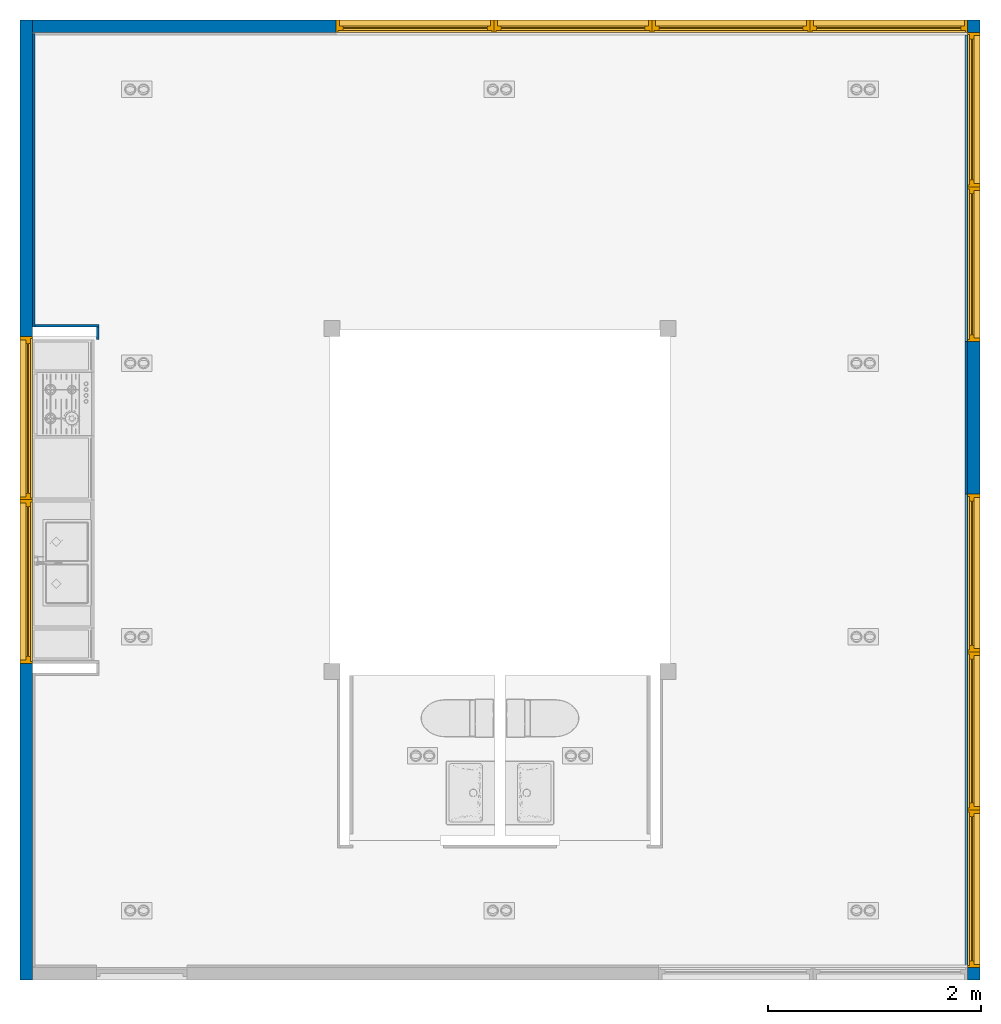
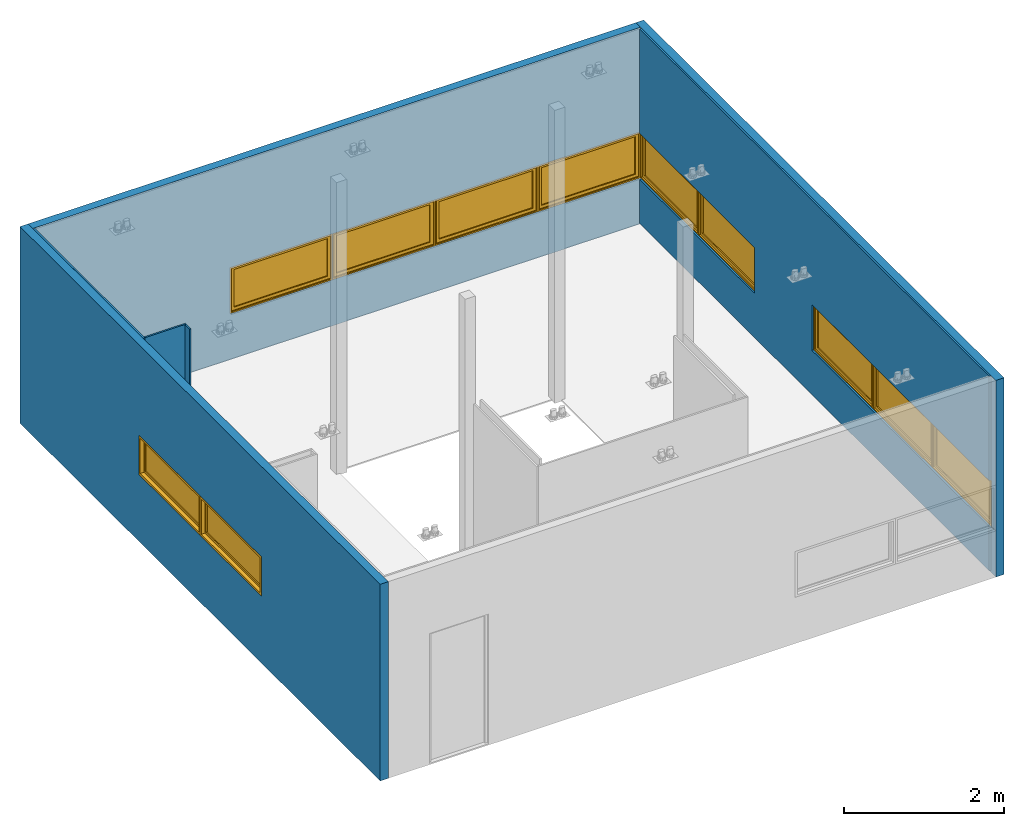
"""IFC2X3 building model written with IfcOpenShell, lengths in centimetres."""

from ifc_helpers import new_model, entity, si_unit, converted_unit, derived_unit, direction, frame, frame_2d, origin, origin_2d_with_axis, place, context, subcontext, project, spatial, polyline, rectangle, outline, extrude, source, transform, mapped, material, material_list, layer, layer_set, layer_usage, type_object, type_shapes, element, fill, save


model = new_model("IFC2X3")

# Units and contexts
model_context = context("Model", 3, precision=0.001, world=origin(), true_north=direction((6.123233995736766e-17, 1.0)))
body_context = subcontext(model_context, "Body", "Model", "MODEL_VIEW")
ifc_project = project(units=[si_unit("LENGTHUNIT", "METRE", prefix="CENTI"), si_unit("AREAUNIT", "SQUARE_METRE"), si_unit("VOLUMEUNIT", "CUBIC_METRE"), converted_unit("PLANEANGLEUNIT", "DEGREE", entity("IfcPlaneAngleMeasure", 0.017453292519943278), si_unit("PLANEANGLEUNIT", "RADIAN"), dimensions=[0, 0, 0, 0, 0, 0, 0]), si_unit("POWERUNIT", "WATT"), derived_unit("USERDEFINED", [(si_unit("MASSUNIT", "GRAM", prefix="KILO"), 1), (si_unit("TIMEUNIT", "SECOND"), -3)]), si_unit("FORCEUNIT", "NEWTON", prefix="KILO"), derived_unit("THERMALTRANSMITTANCEUNIT", [(si_unit("MASSUNIT", "GRAM", prefix="KILO"), 1), (si_unit("TIMEUNIT", "SECOND"), -3), (si_unit("THERMODYNAMICTEMPERATUREUNIT", "KELVIN"), -1)]), derived_unit("USERDEFINED", [(si_unit("MASSUNIT", "GRAM", prefix="KILO"), 1), (si_unit("THERMODYNAMICTEMPERATUREUNIT", "KELVIN"), -1), (si_unit("TIMEUNIT", "SECOND"), -2)]), derived_unit("THERMALRESISTANCEUNIT", [(si_unit("MASSUNIT", "GRAM", prefix="KILO"), -1), (si_unit("TIMEUNIT", "SECOND"), 3), (si_unit("THERMODYNAMICTEMPERATUREUNIT", "KELVIN"), 1)]), derived_unit("USERDEFINED", [(si_unit("MASSUNIT", "GRAM", prefix="KILO"), -1), (si_unit("TIMEUNIT", "SECOND"), 3), (si_unit("LENGTHUNIT", "METRE"), -2), (si_unit("LUMINOUSFLUXUNIT", "LUMEN"), 1)]), si_unit("LUMINOUSFLUXUNIT", "LUMEN")], contexts=[model_context])

# Site, building, storey
site_placement = place(None, origin())
site = spatial("IfcSite", under=ifc_project, at=site_placement, Name="Default", CompositionType="ELEMENT")
building_placement = place(site_placement, origin())
building = spatial("IfcBuilding", under=site, at=building_placement, Name="Workshop Hbaitáculo - Refugio Tierra del Fuego", CompositionType="ELEMENT")
storey_1_placement = place(building_placement, frame((0.0, 0.0, 123.0)))
storey_1 = spatial("IfcBuildingStorey", under=building, at=storey_1_placement, Name="NPT", CompositionType="ELEMENT", Elevation=123.0)

# Wall, openings
ifc_material_1 = material(Name="SIP OSB")
ifc_layer_1 = layer(ifc_material_1, 1.1)
ifc_material_2 = material(Name="SIP Aislamiento - Poliestireno expandido")
ifc_layer_2 = layer(ifc_material_2, 9.5)
ifc_layer_3 = layer(ifc_material_1, 1.1)
ifc_layer_set_1 = layer_set([ifc_layer_1, ifc_layer_2, ifc_layer_3], Name="Muro básico:Panel SiP perimetral 117mm")
ifc_layer_usage_1 = layer_usage(ifc_layer_set_1, "AXIS2", "NEGATIVE", 5.849999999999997)
wall_type_1 = type_object("IfcWallType", Name="Muro básico:Panel SiP perimetral 117mm", PredefinedType="STANDARD", material=ifc_layer_set_1)
wall_1_placement = place(storey_1_placement, frame((5.700000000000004, 309.14999999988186, -2.0), z_axis=(0.0, 0.0, 1.0), x_axis=(0.0, -1.0, 0.0)))
wall_1 = element("IfcWallStandardCase", 1, at=wall_1_placement, inside=storey_1, type_object=wall_type_1, material=ifc_layer_usage_1, Name="Muro básico:Panel SiP perimetral 117mm", ObjectType="Muro básico:Panel SiP perimetral 117mm", context=body_context, shape_type="SweptSolid", body=[
    extrude(rectangle(XDim=900.299999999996, YDim=11.699999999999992, at=frame_2d((450.149999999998, 0.0), x_axis=(-1.0, 0.0))), origin(), (0.0, 0.0, 1.0), 299.99999999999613),
])
opening_1_placement = place(wall_1_placement, frame((449.89999999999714, -5.849999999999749, 102.0)))
opening_1 = element("IfcOpeningElement", 2, at=opening_1_placement, cuts=wall_1, Name="M_Fixed1:153.5*60:1", ObjectType="Opening", context=body_context, shape_type="SweptSolid", body=[
    extrude(rectangle(XDim=59.9999999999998, YDim=153.49999999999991, at=frame_2d((29.999999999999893, 76.75000000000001), x_axis=(1.0, 0.0))), frame((0.0, 0.0, 0.0), z_axis=(0.0, 1.0, 0.0), x_axis=(0.0, 0.0, 1.0)), (0.0, 0.0, 1.0), 11.699999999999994),
])
opening_2_placement = place(wall_1_placement, frame((296.89999999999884, -5.850000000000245, 102.0)))
opening_2 = element("IfcOpeningElement", 3, at=opening_2_placement, cuts=wall_1, Name="M_Fixed1:153.5*60:1", ObjectType="Opening", context=body_context, shape_type="SweptSolid", body=[
    extrude(rectangle(XDim=59.9999999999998, YDim=153.49999999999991, at=frame_2d((29.999999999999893, 76.74999999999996), x_axis=(1.0, 0.0))), frame((0.0, 0.0, 0.0), z_axis=(0.0, 1.0, 0.0), x_axis=(0.0, 0.0, 1.0)), (0.0, 0.0, 1.0), 11.699999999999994),
])

# Storey
storey_2_placement = place(building_placement, frame((0.0, 0.0, 100.0)))
storey_2 = spatial("IfcBuildingStorey", under=building, at=storey_2_placement, Name="NOG_PISO 1", CompositionType="ELEMENT", Elevation=100.0)

# Window
ifc_material_3 = material(Name="Aluminio anodizado, antracita")
ifc_material_4 = material(Name="Glass")
ifc_material_list = material_list([ifc_material_3, ifc_material_4])
window_style_1 = type_object("IfcWindowStyle", Name="M_Fixed1:153.5*60", ConstructionType="NOTDEFINED", OperationType="NOTDEFINED", ParameterTakesPrecedence=False, Sizeable=False, material=ifc_material_list)
shared_shape_1 = source(origin(), body_context, "Body", "SweptSolid", [
    extrude(outline(polyline([(-76.75000000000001, -30.0), (76.75000000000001, -30.0), (76.75000000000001, 30.0), (-76.75000000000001, 30.0), (-76.75000000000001, -30.0)]), holes=[polyline([(-73.55000000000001, -26.799999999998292), (-73.54999999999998, 26.80000000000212), (73.55000000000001, 26.80000000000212), (73.55000000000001, -26.799999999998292), (-73.55000000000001, -26.799999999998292)])]), frame((76.75000000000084, 0.0, 30.0), z_axis=(0.0, 1.0, 0.0), x_axis=(1.0, 0.0, 0.0)), (0.0, 0.0, 1.0), 5.399999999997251),
    extrude(outline(polyline([(-76.74999999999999, -30.0), (76.74999999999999, -30.0), (76.74999999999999, 30.0), (-76.74999999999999, 30.0), (-76.74999999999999, -30.0)]), holes=[polyline([(-74.85000000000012, -28.099999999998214), (-74.85000000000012, 28.100000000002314), (74.84999999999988, 28.100000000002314), (74.84999999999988, -28.099999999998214), (-74.85000000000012, -28.099999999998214)])]), frame((76.75000000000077, 5.399999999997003, 30.0), z_axis=(0.0, 1.0, 0.0), x_axis=(1.0, 0.0, 0.0)), (0.0, 0.0, 1.0), 6.300000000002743),
    extrude(outline(polyline([(-74.85, -28.100000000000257), (74.85, -28.100000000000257), (74.85, 28.10000000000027), (-74.85, 28.10000000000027), (-74.85, -28.100000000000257)]), holes=[polyline([(-70.44999999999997, -23.700000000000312), (-70.44999999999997, 23.700000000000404), (70.44999999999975, 23.700000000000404), (70.44999999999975, -23.700000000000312), (-70.44999999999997, -23.700000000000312)])]), frame((76.75000000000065, 5.399999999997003, 30.0), z_axis=(0.0, 1.0, 0.0), x_axis=(1.0, 0.0, 0.0)), (0.0, 0.0, 1.0), 4.400000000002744),
    extrude(rectangle(XDim=1.1999999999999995, YDim=140.89999999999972, at=origin_2d_with_axis()), frame((76.75000000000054, 7.599999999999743, 6.299999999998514), z_axis=(0.0, 0.0, 1.0), x_axis=(0.0, -1.0, 0.0)), (0.0, 0.0, 1.0), 47.400000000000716),
])
type_shapes(window_style_1, [shared_shape_1])
window_1_placement = place(opening_1_placement, origin())
window_1 = element("IfcWindow", 4, at=window_1_placement, inside=storey_2, type_object=window_style_1, material=ifc_material_list, Name="M_Fixed1:153.5*60", ObjectType="M_Fixed1:153.5*60", OverallHeight=59.99999999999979, OverallWidth=153.49999999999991, context=body_context, shape_type="MappedRepresentation", body=[
    mapped(shared_shape_1, transform((0.0, 0.0, 0.0), scale=1.0)),
])

fill(opening_1, window_1)

window_style_2 = type_object("IfcWindowStyle", Name="M_Fixed1:153.5*60", ConstructionType="NOTDEFINED", OperationType="NOTDEFINED", ParameterTakesPrecedence=False, Sizeable=False, material=ifc_material_list)
shared_shape_2 = source(origin(), body_context, "Body", "SweptSolid", [
    extrude(outline(polyline([(-76.75000000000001, -30.0), (76.75000000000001, -30.0), (76.75000000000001, 30.0), (-76.75000000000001, 30.0), (-76.75000000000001, -30.0)]), holes=[polyline([(-73.55000000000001, -26.799999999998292), (-73.54999999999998, 26.80000000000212), (73.55000000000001, 26.80000000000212), (73.55000000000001, -26.799999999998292), (-73.55000000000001, -26.799999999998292)])]), frame((76.75000000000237, 8.0, 30.0), z_axis=(0.0, -1.0, 0.0), x_axis=(-1.0, 0.0, 0.0)), (0.0, 0.0, 1.0), 5.399999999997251),
    extrude(outline(polyline([(-76.74999999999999, -30.0), (76.74999999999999, -30.0), (76.74999999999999, 30.0), (-76.74999999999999, 30.0), (-76.74999999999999, -30.0)]), holes=[polyline([(-74.85000000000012, -28.099999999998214), (-74.85000000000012, 28.100000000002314), (74.84999999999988, 28.100000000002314), (74.84999999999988, -28.099999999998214), (-74.85000000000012, -28.099999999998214)])]), frame((76.75000000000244, 14.300000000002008, 30.0), z_axis=(0.0, -1.0, 0.0), x_axis=(-1.0, 0.0, 0.0)), (0.0, 0.0, 1.0), 6.300000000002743),
    extrude(outline(polyline([(-74.85, -28.100000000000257), (74.85, -28.100000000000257), (74.85, 28.10000000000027), (-74.85, 28.10000000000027), (-74.85, -28.100000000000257)]), holes=[polyline([(-70.44999999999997, -23.700000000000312), (-70.44999999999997, 23.700000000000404), (70.44999999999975, 23.700000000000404), (70.44999999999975, -23.700000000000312), (-70.44999999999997, -23.700000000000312)])]), frame((76.75000000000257, 12.400000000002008, 30.0), z_axis=(0.0, -1.0, 0.0), x_axis=(-1.0, 0.0, 0.0)), (0.0, 0.0, 1.0), 4.400000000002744),
    extrude(rectangle(XDim=140.89999999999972, YDim=1.1999999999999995, at=origin_2d_with_axis()), frame((76.75000000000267, 10.200000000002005, 6.299999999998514), z_axis=(0.0, 0.0, 1.0), x_axis=(-1.0, 0.0, 0.0)), (0.0, 0.0, 1.0), 47.400000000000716),
])
type_shapes(window_style_2, [shared_shape_2])
window_2_placement = place(opening_2_placement, frame((0.0, -2.6000000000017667, 0.0)))
window_2 = element("IfcWindow", 5, at=window_2_placement, inside=storey_2, type_object=window_style_2, material=ifc_material_list, Name="M_Fixed1:153.5*60", ObjectType="M_Fixed1:153.5*60", OverallHeight=59.99999999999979, OverallWidth=153.49999999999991, context=body_context, shape_type="MappedRepresentation", body=[
    mapped(shared_shape_2, transform((0.0, 0.0, 0.0), scale=1.0)),
])

fill(opening_2, window_2)

# Wall, openings, windows
ifc_layer_usage_2 = layer_usage(ifc_layer_set_1, "AXIS2", "NEGATIVE", 5.849999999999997)
wall_2_placement = place(storey_1_placement, frame((11.549999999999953, 303.29999999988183, -2.0)))
wall_2 = element("IfcWallStandardCase", 6, at=wall_2_placement, inside=storey_1, type_object=wall_type_1, material=ifc_layer_usage_2, Name="Muro básico:Panel SiP perimetral 117mm", ObjectType="Muro básico:Panel SiP perimetral 117mm", context=body_context, shape_type="SweptSolid", body=[
    extrude(rectangle(XDim=876.9000000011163, YDim=11.700000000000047, at=frame_2d((438.45000000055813, -1.021405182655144e-14), x_axis=(-1.0, 0.0))), origin(), (0.0, 0.0, 1.0), 299.99999999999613),
])
opening_3_placement = place(wall_2_placement, origin())
element("IfcOpeningElement", 7, at=opening_3_placement, cuts=wall_2, Name="Muro básico:Panel SiP perimetral 117mm", ObjectType="Opening", context=body_context, shape_type="SweptSolid", body=[
    extrude(rectangle(XDim=69.9999999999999, YDim=11.700000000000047, at=frame_2d((-5.417888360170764e-14, 0.0), x_axis=(0.0, 1.0))), frame((882.7500000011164, -150.69999999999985, 105.50000000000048), z_axis=(0.0, 1.0, 0.0), x_axis=(1.0, 0.0, 0.0)), (0.0, 0.0, 1.0), 144.99999999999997),
])
opening_4_placement = place(wall_2_placement, frame((877.050000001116, 5.849999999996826, 70.50000000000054)))
opening_4 = element("IfcOpeningElement", 8, at=opening_4_placement, cuts=wall_2, Name="M_Fixed1:148*70:1", ObjectType="Opening", context=body_context, shape_type="SweptSolid", body=[
    extrude(rectangle(XDim=69.99999999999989, YDim=147.99999999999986, at=frame_2d((34.99999999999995, 73.99999999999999), x_axis=(1.0, 0.0))), frame((0.0, 0.0, 0.0), z_axis=(0.0, -1.0, 0.0), x_axis=(0.0, 0.0, 1.0)), (0.0, 0.0, 1.0), 11.699999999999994),
])
opening_5_placement = place(wall_2_placement, frame((729.0500000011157, 5.849999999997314, 70.50000000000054)))
opening_5 = element("IfcOpeningElement", 9, at=opening_5_placement, cuts=wall_2, Name="M_Fixed1:148*70:1", ObjectType="Opening", context=body_context, shape_type="SweptSolid", body=[
    extrude(rectangle(XDim=69.99999999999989, YDim=147.99999999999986, at=frame_2d((34.99999999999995, 73.99999999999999), x_axis=(1.0, 0.0))), frame((0.0, 0.0, 0.0), z_axis=(0.0, -1.0, 0.0), x_axis=(0.0, 0.0, 1.0)), (0.0, 0.0, 1.0), 11.699999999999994),
])
opening_6_placement = place(wall_2_placement, frame((580.9378211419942, 5.849999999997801, 70.50000000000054)))
opening_6 = element("IfcOpeningElement", 10, at=opening_6_placement, cuts=wall_2, Name="M_Fixed1:148*70:1", ObjectType="Opening", context=body_context, shape_type="SweptSolid", body=[
    extrude(rectangle(XDim=69.99999999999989, YDim=147.99999999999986, at=frame_2d((34.99999999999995, 73.99999999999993), x_axis=(1.0, 0.0))), frame((0.0, 0.0, 0.0), z_axis=(0.0, -1.0, 0.0), x_axis=(0.0, 0.0, 1.0)), (0.0, 0.0, 1.0), 11.699999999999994),
])
opening_7_placement = place(wall_2_placement, frame((432.82564228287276, 5.849999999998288, 70.50000000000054)))
opening_7 = element("IfcOpeningElement", 11, at=opening_7_placement, cuts=wall_2, Name="M_Fixed1:148*70:1", ObjectType="Opening", context=body_context, shape_type="SweptSolid", body=[
    extrude(rectangle(XDim=69.99999999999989, YDim=147.99999999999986, at=frame_2d((34.99999999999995, 73.99999999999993), x_axis=(1.0, 0.0))), frame((0.0, 0.0, 0.0), z_axis=(0.0, -1.0, 0.0), x_axis=(0.0, 0.0, 1.0)), (0.0, 0.0, 1.0), 11.699999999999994),
])
window_style_3 = type_object("IfcWindowStyle", Name="M_Fixed1:148*70", ConstructionType="NOTDEFINED", OperationType="NOTDEFINED", ParameterTakesPrecedence=False, Sizeable=False, material=ifc_material_list)
shared_shape_3 = source(origin(), body_context, "Body", "SweptSolid", [
    extrude(outline(polyline([(-74.0, -35.0), (74.0, -35.0), (74.0, 35.0), (-74.0, 35.0), (-74.0, -35.0)]), holes=[polyline([(-70.79999999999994, -31.799999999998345), (-70.79999999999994, 31.80000000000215), (70.79999999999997, 31.80000000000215), (70.79999999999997, -31.799999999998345), (-70.79999999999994, -31.799999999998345)])]), frame((74.0, 0.0, 35.0), z_axis=(0.0, 1.0, 0.0), x_axis=(1.0, 0.0, 0.0)), (0.0, 0.0, 1.0), 5.399999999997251),
    extrude(outline(polyline([(-74.0, -35.0), (74.0, -35.0), (74.0, 35.0), (-74.0, 35.0), (-74.0, -35.0)]), holes=[polyline([(-72.10000000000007, -33.09999999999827), (-72.10000000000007, 33.10000000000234), (72.09999999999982, 33.10000000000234), (72.09999999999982, -33.09999999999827), (-72.10000000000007, -33.09999999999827)])]), frame((74.0, 5.3999999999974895, 35.0), z_axis=(0.0, 1.0, 0.0), x_axis=(1.0, 0.0, 0.0)), (0.0, 0.0, 1.0), 6.300000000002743),
    extrude(outline(polyline([(-72.09999999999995, -33.1000000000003), (72.09999999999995, -33.1000000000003), (72.09999999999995, 33.100000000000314), (-72.09999999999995, 33.100000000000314), (-72.09999999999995, -33.1000000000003)]), holes=[polyline([(-67.69999999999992, -28.70000000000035), (-67.69999999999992, 28.700000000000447), (67.6999999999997, 28.700000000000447), (67.6999999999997, -28.70000000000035), (-67.69999999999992, -28.70000000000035)])]), frame((74.0, 5.3999999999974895, 35.0), z_axis=(0.0, 1.0, 0.0), x_axis=(1.0, 0.0, 0.0)), (0.0, 0.0, 1.0), 4.400000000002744),
    extrude(rectangle(XDim=1.1999999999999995, YDim=135.3999999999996, at=origin_2d_with_axis()), frame((74.0, 7.600000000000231, 6.299999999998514), z_axis=(0.0, 0.0, 1.0), x_axis=(0.0, -1.0, 0.0)), (0.0, 0.0, 1.0), 57.400000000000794),
])
type_shapes(window_style_3, [shared_shape_3])
window_3_placement = place(opening_4_placement, frame((0.0, 0.0, 0.0), z_axis=(0.0, 0.0, 1.0), x_axis=(-1.0, 0.0, 0.0)))
window_3 = element("IfcWindow", 12, at=window_3_placement, inside=storey_2, type_object=window_style_3, material=ifc_material_list, Name="M_Fixed1:148*70", ObjectType="M_Fixed1:148*70", OverallHeight=69.9999999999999, OverallWidth=147.99999999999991, context=body_context, shape_type="MappedRepresentation", body=[
    mapped(shared_shape_3, transform((0.0, 0.0, 0.0), scale=1.0)),
])
fill(opening_4, window_3)
window_4_placement = place(opening_5_placement, frame((0.0, 0.0, 0.0), z_axis=(0.0, 0.0, 1.0), x_axis=(-1.0, 0.0, 0.0)))
window_4 = element("IfcWindow", 13, at=window_4_placement, inside=storey_2, type_object=window_style_3, material=ifc_material_list, Name="M_Fixed1:148*70", ObjectType="M_Fixed1:148*70", OverallHeight=69.9999999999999, OverallWidth=147.99999999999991, context=body_context, shape_type="MappedRepresentation", body=[
    mapped(shared_shape_3, transform((0.0, 0.0, 0.0), scale=1.0)),
])
fill(opening_5, window_4)
window_5_placement = place(opening_6_placement, frame((0.0, 0.0, 0.0), z_axis=(0.0, 0.0, 1.0), x_axis=(-1.0, 0.0, 0.0)))
window_5 = element("IfcWindow", 14, at=window_5_placement, inside=storey_2, type_object=window_style_3, material=ifc_material_list, Name="M_Fixed1:148*70", ObjectType="M_Fixed1:148*70", OverallHeight=69.9999999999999, OverallWidth=147.99999999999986, context=body_context, shape_type="MappedRepresentation", body=[
    mapped(shared_shape_3, transform((0.0, 0.0, 0.0), scale=1.0)),
])
fill(opening_6, window_5)
window_6_placement = place(opening_7_placement, frame((0.0, 0.0, 0.0), z_axis=(0.0, 0.0, 1.0), x_axis=(-1.0, 0.0, 0.0)))
window_6 = element("IfcWindow", 15, at=window_6_placement, inside=storey_2, type_object=window_style_3, material=ifc_material_list, Name="M_Fixed1:148*70", ObjectType="M_Fixed1:148*70", OverallHeight=69.9999999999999, OverallWidth=147.99999999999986, context=body_context, shape_type="MappedRepresentation", body=[
    mapped(shared_shape_3, transform((0.0, 0.0, 0.0), scale=1.0)),
])
fill(opening_7, window_6)

ifc_layer_usage_3 = layer_usage(ifc_layer_set_1, "AXIS2", "POSITIVE", -5.849999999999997)
wall_3_placement = place(storey_1_placement, frame((894.3000000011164, 309.1499999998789, -2.0), z_axis=(0.0, 0.0, 1.0), x_axis=(0.0, -1.0, 0.0)))
wall_3 = element("IfcWallStandardCase", 16, at=wall_3_placement, inside=storey_1, type_object=wall_type_1, material=ifc_layer_usage_3, Name="Muro básico:Panel SiP perimetral 117mm", ObjectType="Muro básico:Panel SiP perimetral 117mm", context=body_context, shape_type="SweptSolid", body=[
    extrude(rectangle(XDim=900.2999999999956, YDim=11.700000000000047, at=frame_2d((450.14999999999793, -5.3734794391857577e-14), x_axis=(-1.0, 0.0))), origin(), (0.0, 0.0, 1.0), 299.99999999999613),
])
opening_8_placement = place(wall_3_placement, origin())
element("IfcOpeningElement", 17, at=opening_8_placement, cuts=wall_3, Name="Muro básico:Panel SiP perimetral 117mm", ObjectType="Opening", context=body_context, shape_type="SweptSolid", body=[
    extrude(rectangle(XDim=69.9999999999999, YDim=11.700000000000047, at=frame_2d((5.417888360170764e-14, 0.0), x_axis=(0.0, 1.0))), frame((894.4499999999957, -150.6999999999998, 105.5), z_axis=(0.0, 1.0, 0.0), x_axis=(1.0, 0.0, 0.0)), (0.0, 0.0, 1.0), 144.99999999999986),
])
opening_9_placement = place(wall_3_placement, origin())
element("IfcOpeningElement", 18, at=opening_9_placement, cuts=wall_3, Name="Muro básico:Panel SiP perimetral 117mm", ObjectType="Opening", context=body_context, shape_type="SweptSolid", body=[
    extrude(rectangle(XDim=69.9999999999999, YDim=11.699999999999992, at=frame_2d((2.708944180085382e-14, 0.0), x_axis=(0.0, 1.0))), frame((5.849999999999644, -153.70000000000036, 105.50000000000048), z_axis=(0.0, 1.0, 0.0), x_axis=(-1.0, 0.0, 0.0)), (0.0, 0.0, 1.0), 147.9999999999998),
])
opening_10_placement = place(wall_3_placement, frame((888.7499999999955, 5.849999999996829, 70.50000000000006)))
opening_10 = element("IfcOpeningElement", 19, at=opening_10_placement, cuts=wall_3, Name="M_Fixed1:148*70:1", ObjectType="Opening", context=body_context, shape_type="SweptSolid", body=[
    extrude(rectangle(XDim=69.99999999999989, YDim=147.99999999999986, at=frame_2d((34.99999999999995, 73.99999999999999), x_axis=(1.0, 0.0))), frame((0.0, 0.0, 0.0), z_axis=(0.0, -1.0, 0.0), x_axis=(0.0, 0.0, 1.0)), (0.0, 0.0, 1.0), 11.699999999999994),
])
opening_11_placement = place(wall_3_placement, frame((592.7499999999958, 5.849999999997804, 70.50000000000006)))
opening_11 = element("IfcOpeningElement", 20, at=opening_11_placement, cuts=wall_3, Name="M_Fixed1:148*70:1", ObjectType="Opening", context=body_context, shape_type="SweptSolid", body=[
    extrude(rectangle(XDim=69.99999999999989, YDim=147.99999999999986, at=frame_2d((34.99999999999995, 73.99999999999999), x_axis=(1.0, 0.0))), frame((0.0, 0.0, 0.0), z_axis=(0.0, -1.0, 0.0), x_axis=(0.0, 0.0, 1.0)), (0.0, 0.0, 1.0), 11.699999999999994),
])
opening_12_placement = place(wall_3_placement, frame((740.7499999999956, 5.849999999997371, 70.50000000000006)))
opening_12 = element("IfcOpeningElement", 21, at=opening_12_placement, cuts=wall_3, Name="M_Fixed1:148*70:1", ObjectType="Opening", context=body_context, shape_type="SweptSolid", body=[
    extrude(rectangle(XDim=69.99999999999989, YDim=147.99999999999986, at=frame_2d((34.99999999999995, 73.99999999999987), x_axis=(1.0, 0.0))), frame((0.0, 0.0, 0.0), z_axis=(0.0, -1.0, 0.0), x_axis=(0.0, 0.0, 1.0)), (0.0, 0.0, 1.0), 11.699999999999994),
])
opening_13_placement = place(wall_3_placement, frame((156.54999999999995, 5.849999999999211, 70.50000000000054)))
opening_13 = element("IfcOpeningElement", 22, at=opening_13_placement, cuts=wall_3, Name="M_Fixed1:145*70:1", ObjectType="Opening", context=body_context, shape_type="SweptSolid", body=[
    extrude(rectangle(XDim=69.99999999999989, YDim=144.9999999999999, at=frame_2d((34.99999999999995, 72.49999999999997), x_axis=(1.0, 0.0))), frame((0.0, 0.0, 0.0), z_axis=(0.0, -1.0, 0.0), x_axis=(0.0, 0.0, 1.0)), (0.0, 0.0, 1.0), 11.699999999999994),
])
opening_14_placement = place(wall_3_placement, frame((301.55, 5.849999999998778, 70.50000000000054)))
opening_14 = element("IfcOpeningElement", 23, at=opening_14_placement, cuts=wall_3, Name="M_Fixed1:145*70:1", ObjectType="Opening", context=body_context, shape_type="SweptSolid", body=[
    extrude(rectangle(XDim=69.99999999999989, YDim=144.9999999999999, at=frame_2d((34.99999999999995, 72.49999999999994), x_axis=(1.0, 0.0))), frame((0.0, 0.0, 0.0), z_axis=(0.0, -1.0, 0.0), x_axis=(0.0, 0.0, 1.0)), (0.0, 0.0, 1.0), 11.699999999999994),
])
window_style_4 = type_object("IfcWindowStyle", Name="M_Fixed1:145*70", ConstructionType="NOTDEFINED", OperationType="NOTDEFINED", ParameterTakesPrecedence=False, Sizeable=False, material=ifc_material_list)
shared_shape_4 = source(origin(), body_context, "Body", "SweptSolid", [
    extrude(outline(polyline([(-72.49999999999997, -35.0), (72.49999999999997, -35.0), (72.49999999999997, 35.0), (-72.49999999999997, 35.0), (-72.49999999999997, -35.0)]), holes=[polyline([(-69.29999999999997, -31.799999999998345), (-69.29999999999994, 31.80000000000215), (69.29999999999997, 31.80000000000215), (69.29999999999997, -31.799999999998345), (-69.29999999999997, -31.799999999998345)])]), frame((72.50000000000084, 0.0, 35.0), z_axis=(0.0, 1.0, 0.0), x_axis=(1.0, 0.0, 0.0)), (0.0, 0.0, 1.0), 5.399999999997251),
    extrude(outline(polyline([(-72.49999999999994, -35.0), (72.49999999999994, -35.0), (72.49999999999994, 35.0), (-72.49999999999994, 35.0), (-72.49999999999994, -35.0)]), holes=[polyline([(-70.60000000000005, -33.09999999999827), (-70.60000000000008, 33.10000000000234), (70.59999999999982, 33.10000000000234), (70.59999999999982, -33.09999999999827), (-70.60000000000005, -33.09999999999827)])]), frame((72.50000000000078, 5.399999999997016, 35.0), z_axis=(0.0, 1.0, 0.0), x_axis=(1.0, 0.0, 0.0)), (0.0, 0.0, 1.0), 6.300000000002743),
    extrude(outline(polyline([(-70.59999999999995, -33.1000000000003), (70.59999999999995, -33.1000000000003), (70.59999999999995, 33.100000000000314), (-70.59999999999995, 33.100000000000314), (-70.59999999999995, -33.1000000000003)]), holes=[polyline([(-66.19999999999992, -28.70000000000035), (-66.19999999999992, 28.700000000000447), (66.1999999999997, 28.700000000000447), (66.1999999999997, -28.70000000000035), (-66.19999999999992, -28.70000000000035)])]), frame((72.50000000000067, 5.399999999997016, 35.0), z_axis=(0.0, 1.0, 0.0), x_axis=(1.0, 0.0, 0.0)), (0.0, 0.0, 1.0), 4.400000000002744),
    extrude(rectangle(XDim=1.1999999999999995, YDim=132.39999999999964, at=origin_2d_with_axis()), frame((72.50000000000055, 7.599999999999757, 6.299999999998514), z_axis=(0.0, 0.0, 1.0), x_axis=(0.0, -1.0, 0.0)), (0.0, 0.0, 1.0), 57.400000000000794),
])
type_shapes(window_style_4, [shared_shape_4])
window_7_placement = place(opening_13_placement, frame((0.0, 0.0, 0.0), z_axis=(0.0, 0.0, 1.0), x_axis=(-1.0, 0.0, 0.0)))
window_7 = element("IfcWindow", 24, at=window_7_placement, inside=storey_2, type_object=window_style_4, material=ifc_material_list, Name="M_Fixed1:145*70", ObjectType="M_Fixed1:145*70", OverallHeight=69.9999999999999, OverallWidth=144.99999999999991, context=body_context, shape_type="MappedRepresentation", body=[
    mapped(shared_shape_4, transform((0.0, 0.0, 0.0), scale=1.0)),
])
fill(opening_13, window_7)
window_8_placement = place(opening_10_placement, frame((0.0, 0.0, 0.0), z_axis=(0.0, 0.0, 1.0), x_axis=(-1.0, 0.0, 0.0)))
window_8 = element("IfcWindow", 25, at=window_8_placement, inside=storey_2, type_object=window_style_3, material=ifc_material_list, Name="M_Fixed1:148*70", ObjectType="M_Fixed1:148*70", OverallHeight=69.9999999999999, OverallWidth=147.99999999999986, context=body_context, shape_type="MappedRepresentation", body=[
    mapped(shared_shape_3, transform((0.0, 0.0, 0.0), scale=1.0)),
])
fill(opening_10, window_8)
window_9_placement = place(opening_12_placement, frame((0.0, 0.0, 0.0), z_axis=(0.0, 0.0, 1.0), x_axis=(-1.0, 0.0, 0.0)))
window_9 = element("IfcWindow", 26, at=window_9_placement, inside=storey_2, type_object=window_style_3, material=ifc_material_list, Name="M_Fixed1:148*70", ObjectType="M_Fixed1:148*70", OverallHeight=69.9999999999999, OverallWidth=147.99999999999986, context=body_context, shape_type="MappedRepresentation", body=[
    mapped(shared_shape_3, transform((0.0, 0.0, 0.0), scale=1.0)),
])
fill(opening_12, window_9)
window_10_placement = place(opening_11_placement, frame((0.0, 0.0, 0.0), z_axis=(0.0, 0.0, 1.0), x_axis=(-1.0, 0.0, 0.0)))
window_10 = element("IfcWindow", 27, at=window_10_placement, inside=storey_2, type_object=window_style_3, material=ifc_material_list, Name="M_Fixed1:148*70", ObjectType="M_Fixed1:148*70", OverallHeight=69.9999999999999, OverallWidth=147.99999999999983, context=body_context, shape_type="MappedRepresentation", body=[
    mapped(shared_shape_3, transform((0.0, 0.0, 0.0), scale=1.0)),
])
fill(opening_11, window_10)
window_style_5 = type_object("IfcWindowStyle", Name="M_Fixed1:145*70", ConstructionType="NOTDEFINED", OperationType="NOTDEFINED", ParameterTakesPrecedence=False, Sizeable=False, material=ifc_material_list)
shared_shape_5 = source(origin(), body_context, "Body", "SweptSolid", [
    extrude(outline(polyline([(-72.49999999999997, -35.0), (72.49999999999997, -35.0), (72.49999999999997, 35.0), (-72.49999999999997, 35.0), (-72.49999999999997, -35.0)]), holes=[polyline([(-69.29999999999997, -31.799999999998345), (-69.29999999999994, 31.80000000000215), (69.29999999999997, 31.80000000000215), (69.29999999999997, -31.799999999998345), (-69.29999999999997, -31.799999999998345)])]), frame((72.50000000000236, 8.0, 35.0), z_axis=(0.0, -1.0, 0.0), x_axis=(-1.0, 0.0, 0.0)), (0.0, 0.0, 1.0), 5.399999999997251),
    extrude(outline(polyline([(-72.49999999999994, -35.0), (72.49999999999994, -35.0), (72.49999999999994, 35.0), (-72.49999999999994, 35.0), (-72.49999999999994, -35.0)]), holes=[polyline([(-70.60000000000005, -33.09999999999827), (-70.60000000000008, 33.10000000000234), (70.59999999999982, 33.10000000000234), (70.59999999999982, -33.09999999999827), (-70.60000000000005, -33.09999999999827)])]), frame((72.50000000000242, 14.30000000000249, 35.0), z_axis=(0.0, -1.0, 0.0), x_axis=(-1.0, 0.0, 0.0)), (0.0, 0.0, 1.0), 6.300000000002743),
    extrude(outline(polyline([(-70.59999999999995, -33.1000000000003), (70.59999999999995, -33.1000000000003), (70.59999999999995, 33.100000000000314), (-70.59999999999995, 33.100000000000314), (-70.59999999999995, -33.1000000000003)]), holes=[polyline([(-66.19999999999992, -28.70000000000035), (-66.19999999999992, 28.700000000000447), (66.1999999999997, 28.700000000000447), (66.1999999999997, -28.70000000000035), (-66.19999999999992, -28.70000000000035)])]), frame((72.50000000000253, 12.40000000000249, 35.0), z_axis=(0.0, -1.0, 0.0), x_axis=(-1.0, 0.0, 0.0)), (0.0, 0.0, 1.0), 4.400000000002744),
    extrude(rectangle(XDim=132.39999999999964, YDim=1.1999999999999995, at=origin_2d_with_axis()), frame((72.50000000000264, 10.200000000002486, 6.299999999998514), z_axis=(0.0, 0.0, 1.0), x_axis=(-1.0, 0.0, 0.0)), (0.0, 0.0, 1.0), 57.400000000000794),
])
type_shapes(window_style_5, [shared_shape_5])
window_11_placement = place(opening_14_placement, frame((0.0, 2.6000000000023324, 0.0), z_axis=(0.0, 0.0, 1.0), x_axis=(-1.0, 0.0, 0.0)))
window_11 = element("IfcWindow", 28, at=window_11_placement, inside=storey_2, type_object=window_style_5, material=ifc_material_list, Name="M_Fixed1:145*70", ObjectType="M_Fixed1:145*70", OverallHeight=69.9999999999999, OverallWidth=144.9999999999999, context=body_context, shape_type="MappedRepresentation", body=[
    mapped(shared_shape_5, transform((0.0, 0.0, 0.0), scale=1.0)),
])
fill(opening_14, window_11)

# Walls
ifc_material_5 = material(Name="Rev Melamina tipo madera")
ifc_layer_4 = layer(ifc_material_5, 1.5)
ifc_material_6 = material(Name="Volcanita ST")
ifc_layer_5 = layer(ifc_material_6, 1.0)
ifc_layer_set_2 = layer_set([ifc_layer_4, ifc_layer_5], Name="Muro básico:Rev Volcanita ST +  Melamina tipo madera")
ifc_layer_usage_4 = layer_usage(ifc_layer_set_2, "AXIS2", "NEGATIVE", 1.25)
wall_type_2 = type_object("IfcWallType", Name="Muro básico:Rev Volcanita ST +  Melamina tipo madera", PredefinedType="STANDARD", material=ifc_layer_set_2)
wall_4_placement = place(storey_1_placement, frame((12.799999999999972, 296.44999999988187, 1.0), z_axis=(0.0, 0.0, 1.0), x_axis=(0.0, -1.0, 0.0)))
element("IfcWallStandardCase", 29, at=wall_4_placement, inside=storey_1, type_object=wall_type_2, material=ifc_layer_usage_4, Name="Muro básico:Rev Volcanita ST +  Melamina tipo madera", ObjectType="Muro básico:Rev Volcanita ST +  Melamina tipo madera", context=body_context, shape_type="SweptSolid", body=[
    extrude(rectangle(XDim=275.19999999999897, YDim=2.5, at=frame_2d((137.59999999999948, 0.0), x_axis=(-1.0, 0.0))), origin(), (0.0, 0.0, 1.0), 296.99999999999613),
])
ifc_layer_usage_5 = layer_usage(ifc_layer_set_2, "AXIS2", "NEGATIVE", 1.25)
wall_5_placement = place(storey_1_placement, frame((14.049999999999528, 22.499999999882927, 1.0)))
element("IfcWallStandardCase", 30, at=wall_5_placement, inside=storey_1, type_object=wall_type_2, material=ifc_layer_usage_5, Name="Muro básico:Rev Volcanita ST +  Melamina tipo madera", ObjectType="Muro básico:Rev Volcanita ST +  Melamina tipo madera", context=body_context, shape_type="SweptSolid", body=[
    extrude(rectangle(XDim=59.85000000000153, YDim=2.5, at=frame_2d((29.925000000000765, 3.3306690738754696e-16), x_axis=(-1.0, 0.0))), origin(), (0.0, 0.0, 1.0), 296.99999999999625),
])

# Wall, openings
ifc_layer_usage_6 = layer_usage(ifc_layer_set_2, "AXIS2", "NEGATIVE", 1.25)
wall_6_placement = place(storey_1_placement, frame((887.2000000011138, -578.7000000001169, 1.0), z_axis=(0.0, 0.0, 1.0), x_axis=(0.0, 1.0, 0.0)))
wall_6 = element("IfcWallStandardCase", 31, at=wall_6_placement, inside=storey_1, type_object=wall_type_2, material=ifc_layer_usage_6, Name="Muro básico:Rev Volcanita ST +  Melamina tipo madera", ObjectType="Muro básico:Rev Volcanita ST +  Melamina tipo madera", context=body_context, shape_type="SweptSolid", body=[
    extrude(rectangle(XDim=873.6499999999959, YDim=2.5000000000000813, at=frame_2d((436.82499999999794, -1.887379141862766e-15), x_axis=(-1.0, 0.0))), origin(), (0.0, 0.0, 1.0), 296.99999999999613),
])
opening_15_placement = place(wall_6_placement, origin())
element("IfcOpeningElement", 32, at=opening_15_placement, cuts=wall_6, Name="Muro básico:Rev Volcanita ST +  Melamina tipo madera", ObjectType="Opening", context=body_context, shape_type="SweptSolid", body=[
    extrude(rectangle(XDim=69.99999999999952, YDim=288.60000000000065, at=frame_2d((0.0, -2.842170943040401e-14), x_axis=(0.0, 1.0))), frame((730.5999999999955, 1.2500000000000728, 102.50000000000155), z_axis=(0.0, -1.0, 0.0), x_axis=(-1.0, 0.0, 0.0)), (0.0, 0.0, 1.0), 2.5),
])
opening_16_placement = place(wall_6_placement, origin())
element("IfcOpeningElement", 33, at=opening_16_placement, cuts=wall_6, Name="Muro básico:Rev Volcanita ST +  Melamina tipo madera", ObjectType="Opening", context=body_context, shape_type="SweptSolid", body=[
    extrude(rectangle(XDim=70.00000000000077, YDim=443.1000000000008, at=frame_2d((0.0, 0.0), x_axis=(0.0, 1.0))), frame((221.5500000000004, 1.2500000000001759, 102.50000000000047), z_axis=(0.0, -1.0, 0.0), x_axis=(1.0, 0.0, 0.0)), (0.0, 0.0, 1.0), 2.5),
])

# Wall
ifc_layer_usage_7 = layer_usage(ifc_layer_set_2, "AXIS2", "NEGATIVE", 1.25)
wall_7_placement = place(storey_1_placement, frame((72.65000000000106, 21.249999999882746, 1.0), z_axis=(0.0, 0.0, 1.0), x_axis=(0.0, -1.0, 0.0)))
element("IfcWallStandardCase", 34, at=wall_7_placement, inside=storey_1, type_object=wall_type_2, material=ifc_layer_usage_7, Name="Muro básico:Rev Volcanita ST +  Melamina tipo madera", ObjectType="Muro básico:Rev Volcanita ST +  Melamina tipo madera", context=body_context, shape_type="SweptSolid", body=[
    extrude(rectangle(XDim=11.500000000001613, YDim=2.5, at=frame_2d((5.7500000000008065, -7.771561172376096e-16), x_axis=(-1.0, 0.0))), origin(), (0.0, 0.0, 1.0), 296.99999999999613),
])

save(model, "model.ifc")
